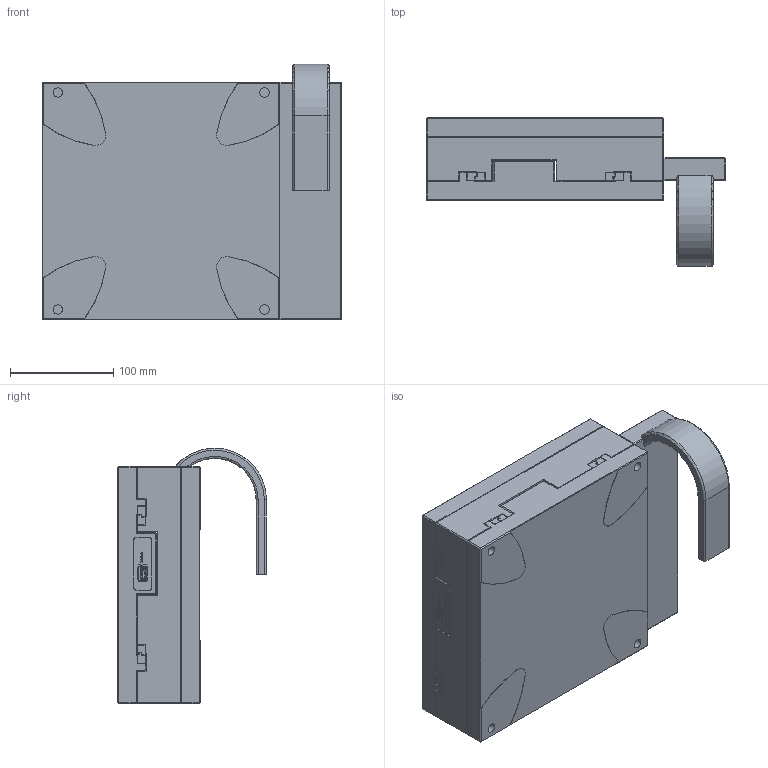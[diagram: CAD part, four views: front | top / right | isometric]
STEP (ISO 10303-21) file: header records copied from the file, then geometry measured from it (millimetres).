
FILE_DESCRIPTION((''),'2;1');
FILE_NAME('KT230_CYBER___________00014000_ASM','2016-09-20T',('profile'),(''),'PRO/ENGINEER BY PARAMETRIC TECHNOLOGY CORPORATION, 2015280','PRO/ENGINEER BY PARAMETRIC TECHNOLOGY CORPORATION, 2015280','');
FILE_SCHEMA(('CONFIG_CONTROL_DESIGN'));
Length unit declared in the file: millimetre
Products named in the file (6): KT230_BASIS___________00013996; KT230_MITTELPLATTE____00013997; KT230_OBERPLATTE______00013998; 782323_317_10_LOGO_PM_00010683; KT230_TERMINAL________00013999; KT230_CYBER___________00014000_ASM
Assembly tree (5 placements, depth 2):
  KT230_CYBER___________00014000_ASM
    KT230_BASIS___________00013996
    KT230_MITTELPLATTE____00013997
    KT230_OBERPLATTE______00013998
    782323_317_10_LOGO_PM_00010683
    KT230_TERMINAL________00013999
Bounding box: 290.3 x 144 x 247.5 mm (x, y, z)
Volume: 4433032 mm3; surface area: 539848.2 mm2
Topology: 5 solids, 33 shells, 1189 faces, 3276 edges, 2133 vertices
Faces by surface type: plane 695, extrusion 272, cylinder 158, cone 60, torus 4
Entity records: 41275 total; most frequent: CARTESIAN_POINT 11962, ORIENTED_EDGE 6320, DIRECTION 5168, EDGE_CURVE 3216, VECTOR 2556, LINE 2284, VERTEX_POINT 2133, AXIS2_PLACEMENT_3D 1306
